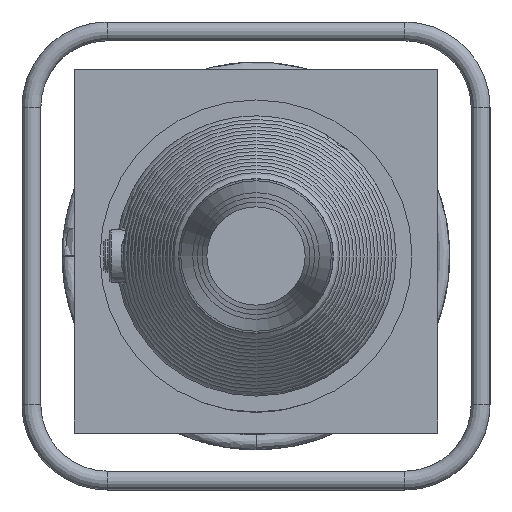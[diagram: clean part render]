
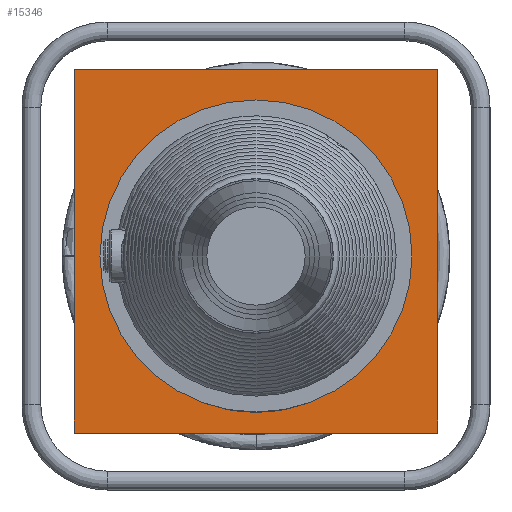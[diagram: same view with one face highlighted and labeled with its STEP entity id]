
A CAD part, left-side view. The second image highlights one B-rep face of the part: STEP entity #15346.
In plain terms, the highlighted planar face has unit normal (-1, 0, 0).
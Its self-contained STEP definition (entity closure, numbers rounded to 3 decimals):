
#1530=PLANE('',#16202);
#2440=LINE('',#39432,#3355);
#2444=LINE('',#39439,#3359);
#2447=LINE('',#39444,#3362);
#2450=LINE('',#39448,#3365);
#3355=VECTOR('',#18755,385.);
#3359=VECTOR('',#18761,385.);
#3362=VECTOR('',#18766,385.);
#3365=VECTOR('',#18771,385.);
#3633=FACE_BOUND('',#5562,.T.);
#4505=FACE_OUTER_BOUND('',#5561,.T.);
#5561=EDGE_LOOP('',(#13859,#13860,#13861,#13862));
#5562=EDGE_LOOP('',(#13863));
#6063=CIRCLE('',#16144,165.);
#7526=VERTEX_POINT('',#35510);
#7550=VERTEX_POINT('',#39430);
#7551=VERTEX_POINT('',#39431);
#7553=VERTEX_POINT('',#39438);
#7554=VERTEX_POINT('',#39443);
#9652=EDGE_CURVE('',#7526,#7526,#6063,.T.);
#9678=EDGE_CURVE('',#7550,#7551,#2440,.T.);
#9682=EDGE_CURVE('',#7551,#7553,#2444,.T.);
#9685=EDGE_CURVE('',#7553,#7554,#2447,.T.);
#9688=EDGE_CURVE('',#7554,#7550,#2450,.T.);
#13859=ORIENTED_EDGE('',*,*,#9688,.T.);
#13860=ORIENTED_EDGE('',*,*,#9678,.T.);
#13861=ORIENTED_EDGE('',*,*,#9682,.T.);
#13862=ORIENTED_EDGE('',*,*,#9685,.T.);
#13863=ORIENTED_EDGE('',*,*,#9652,.T.);
#15346=ADVANCED_FACE('',(#4505,#3633),#1530,.F.);
#16144=AXIS2_PLACEMENT_3D('',#35511,#18640,#18641);
#16202=AXIS2_PLACEMENT_3D('',#39449,#18772,#18773);
#18640=DIRECTION('center_axis',(1.,0.,0.));
#18641=DIRECTION('ref_axis',(0.,1.,0.));
#18755=DIRECTION('',(0.,0.,-1.));
#18761=DIRECTION('',(0.,-1.,0.));
#18766=DIRECTION('',(0.,0.,1.));
#18771=DIRECTION('',(0.,1.,0.));
#18772=DIRECTION('center_axis',(1.,0.,0.));
#18773=DIRECTION('ref_axis',(0.,0.,1.));
#35510=CARTESIAN_POINT('',(-112.151,165.,0.));
#35511=CARTESIAN_POINT('Origin',(-112.151,0.,
0.));
#39430=CARTESIAN_POINT('',(-112.151,192.5,197.753));
#39431=CARTESIAN_POINT('',(-112.151,192.5,-187.247));
#39432=CARTESIAN_POINT('',(-112.151,192.5,197.753));
#39438=CARTESIAN_POINT('',(-112.151,-192.5,-187.247));
#39439=CARTESIAN_POINT('',(-112.151,192.5,-187.247));
#39443=CARTESIAN_POINT('',(-112.151,-192.5,197.753));
#39444=CARTESIAN_POINT('',(-112.151,-192.5,-187.247));
#39448=CARTESIAN_POINT('',(-112.151,-192.5,197.753));
#39449=CARTESIAN_POINT('Origin',(-112.151,0.,5.253));
